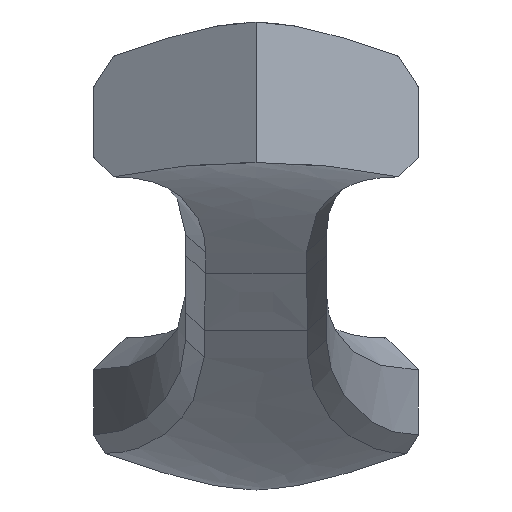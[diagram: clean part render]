
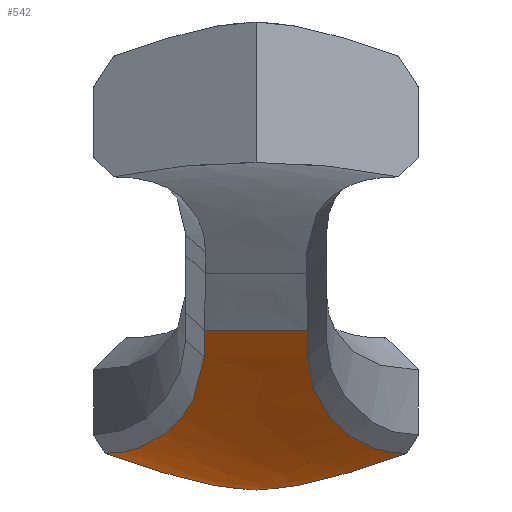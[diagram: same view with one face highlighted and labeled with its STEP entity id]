
A CAD part, left-side view. The second image highlights one B-rep face of the part: STEP entity #542.
In plain terms, the highlighted free-form (B-spline) face has degree [3, 3] with [4, 4] control points.
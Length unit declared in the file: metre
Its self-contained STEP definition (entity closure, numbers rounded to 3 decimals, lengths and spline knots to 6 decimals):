
#122=ORIENTED_EDGE('',*,*,#285,.T.);
#123=ORIENTED_EDGE('',*,*,#286,.T.);
#124=ORIENTED_EDGE('',*,*,#287,.T.);
#125=ORIENTED_EDGE('',*,*,#288,.F.);
#126=ORIENTED_EDGE('',*,*,#289,.T.);
#127=ORIENTED_EDGE('',*,*,#290,.T.);
#128=ORIENTED_EDGE('',*,*,#291,.T.);
#285=EDGE_CURVE('',#364,#365,#416,.T.);
#286=EDGE_CURVE('',#365,#366,#417,.T.);
#287=EDGE_CURVE('',#366,#367,#418,.T.);
#288=EDGE_CURVE('',#368,#367,#419,.T.);
#289=EDGE_CURVE('',#368,#369,#420,.T.);
#290=EDGE_CURVE('',#369,#370,#421,.T.);
#291=EDGE_CURVE('',#370,#364,#422,.T.);
#364=VERTEX_POINT('',#1067);
#365=VERTEX_POINT('',#1068);
#366=VERTEX_POINT('',#1073);
#367=VERTEX_POINT('',#1102);
#368=VERTEX_POINT('',#1107);
#369=VERTEX_POINT('',#1112);
#370=VERTEX_POINT('',#1141);
#416=B_SPLINE_CURVE_WITH_KNOTS('',3,(#1063,#1064,#1065,#1066),
 .UNSPECIFIED.,.F.,.F.,(4,4),(0.13151,0.868128),
 .UNSPECIFIED.);
#417=B_SPLINE_CURVE_WITH_KNOTS('',3,(#1069,#1070,#1071,#1072),
 .UNSPECIFIED.,.F.,.F.,(4,4),(0.,1.),.UNSPECIFIED.);
#418=B_SPLINE_CURVE_WITH_KNOTS('',3,(#1074,#1075,#1076,#1077,#1078,#1079,
#1080,#1081,#1082,#1083,#1084,#1085,#1086,#1087,#1088,#1089,#1090,#1091,
#1092,#1093,#1094,#1095,#1096,#1097,#1098,#1099,#1100,#1101),
 .UNSPECIFIED.,.F.,.F.,(4,1,1,1,1,1,1,1,1,1,1,1,1,1,1,1,1,1,1,1,1,1,1,1,
1,4),(0.,0.125,0.1875,0.21875,0.234375,0.25,0.265625,0.28125,0.3125,0.375,
0.4375,0.46875,0.484375,0.5,0.515625,0.53125,0.5625,0.625,0.6875,0.71875,
0.75,0.78125,0.8125,0.875,0.9375,1.),.UNSPECIFIED.);
#419=B_SPLINE_CURVE_WITH_KNOTS('',3,(#1103,#1104,#1105,#1106),
 .UNSPECIFIED.,.F.,.F.,(4,4),(0.,1.),.PIECEWISE_BEZIER_KNOTS.);
#420=B_SPLINE_CURVE_WITH_KNOTS('',3,(#1108,#1109,#1110,#1111),
 .UNSPECIFIED.,.F.,.F.,(4,4),(0.,1.),.PIECEWISE_BEZIER_KNOTS.);
#421=B_SPLINE_CURVE_WITH_KNOTS('',3,(#1113,#1114,#1115,#1116,#1117,#1118,
#1119,#1120,#1121,#1122,#1123,#1124,#1125,#1126,#1127,#1128,#1129,#1130,
#1131,#1132,#1133,#1134,#1135,#1136,#1137,#1138,#1139,#1140),
 .UNSPECIFIED.,.F.,.F.,(4,1,1,1,1,1,1,1,1,1,1,1,1,1,1,1,1,1,1,1,1,1,1,1,
1,4),(0.,0.0625,0.125,0.1875,0.21875,0.25,0.28125,0.3125,0.375,0.4375,0.46875,
0.484375,0.5,0.515625,0.53125,0.5625,0.625,0.6875,0.71875,0.734375,0.75,
0.765625,0.78125,0.8125,0.875,1.),.UNSPECIFIED.);
#422=B_SPLINE_CURVE_WITH_KNOTS('',3,(#1142,#1143,#1144,#1145),
 .UNSPECIFIED.,.F.,.F.,(4,4),(0.,1.),.UNSPECIFIED.);
#466=EDGE_LOOP('',(#122,#123,#124,#125,#126,#127,#128));
#502=FACE_BOUND('',#466,.T.);
#532=(
BOUNDED_SURFACE()
B_SPLINE_SURFACE(3,3,((#1047,#1048,#1049,#1050),(#1051,#1052,#1053,#1054),
(#1055,#1056,#1057,#1058),(#1059,#1060,#1061,#1062)),
 .SURF_OF_REVOLUTION.,.F.,.F.,.F.)
B_SPLINE_SURFACE_WITH_KNOTS((4,4),(4,4),(0.,0.87229),(0.,1.),
 .PIECEWISE_BEZIER_KNOTS.)
GEOMETRIC_REPRESENTATION_ITEM()
RATIONAL_B_SPLINE_SURFACE(((1.,0.667,0.667,1.),
(1.,0.667,0.667,1.),(1.,0.667,0.667,
1.),(1.,0.667,0.667,1.)))
REPRESENTATION_ITEM('')
SURFACE()
);
#542=ADVANCED_FACE('',(#502),#532,.T.);
#1047=CARTESIAN_POINT('',(0.050911,0.,-0.00989));
#1048=CARTESIAN_POINT('',(0.050911,0.,-0.00989));
#1049=CARTESIAN_POINT('',(0.050911,0.,-0.00989));
#1050=CARTESIAN_POINT('',(0.050911,0.,-0.00989));
#1051=CARTESIAN_POINT('',(0.048577,-0.004042,-0.009899));
#1052=CARTESIAN_POINT('',(0.045076,-0.002021,-0.009913));
#1053=CARTESIAN_POINT('',(0.045076,0.002021,-0.009913));
#1054=CARTESIAN_POINT('',(0.048577,0.004042,-0.009899));
#1055=CARTESIAN_POINT('',(0.043922,-0.012078,-0.005933));
#1056=CARTESIAN_POINT('',(0.033462,-0.006039,-0.005975));
#1057=CARTESIAN_POINT('',(0.033462,0.006039,-0.005975));
#1058=CARTESIAN_POINT('',(0.043922,0.012078,-0.005933));
#1059=CARTESIAN_POINT('',(0.039634,-0.019485,-0.002978));
#1060=CARTESIAN_POINT('',(0.022759,-0.009743,-0.003044));
#1061=CARTESIAN_POINT('',(0.022759,0.009743,-0.003044));
#1062=CARTESIAN_POINT('',(0.039634,0.019485,-0.002978));
#1063=CARTESIAN_POINT('',(0.028646,-0.002206,-0.003074));
#1064=CARTESIAN_POINT('',(0.028633,-0.000728,-0.00312));
#1065=CARTESIAN_POINT('',(0.028633,0.000726,-0.00312));
#1066=CARTESIAN_POINT('',(0.028646,0.002204,-0.003074));
#1067=CARTESIAN_POINT('',(0.028646,-0.002206,-0.003074));
#1068=CARTESIAN_POINT('',(0.028646,0.002204,-0.003074));
#1069=CARTESIAN_POINT('',(0.028646,0.002206,-0.003074));
#1070=CARTESIAN_POINT('',(0.029819,0.002208,-0.003476));
#1071=CARTESIAN_POINT('',(0.030924,0.00221,-0.003867));
#1072=CARTESIAN_POINT('',(0.031949,0.002212,-0.004233));
#1073=CARTESIAN_POINT('',(0.031949,0.002212,-0.004233));
#1074=CARTESIAN_POINT('',(0.031949,0.002212,-0.004233));
#1075=CARTESIAN_POINT('',(0.032663,0.002214,-0.004489));
#1076=CARTESIAN_POINT('',(0.033679,0.002255,-0.004853));
#1077=CARTESIAN_POINT('',(0.034773,0.00235,-0.005243));
#1078=CARTESIAN_POINT('',(0.035289,0.002406,-0.005426));
#1079=CARTESIAN_POINT('',(0.035586,0.002443,-0.005531));
#1080=CARTESIAN_POINT('',(0.03578,0.002467,-0.005599));
#1081=CARTESIAN_POINT('',(0.03607,0.002507,-0.005701));
#1082=CARTESIAN_POINT('',(0.036416,0.002559,-0.005821));
#1083=CARTESIAN_POINT('',(0.037023,0.002657,-0.006032));
#1084=CARTESIAN_POINT('',(0.037841,0.002812,-0.006311));
#1085=CARTESIAN_POINT('',(0.038613,0.002985,-0.006566));
#1086=CARTESIAN_POINT('',(0.03912,0.00311,-0.00673));
#1087=CARTESIAN_POINT('',(0.039412,0.003186,-0.006823));
#1088=CARTESIAN_POINT('',(0.039599,0.003236,-0.006881));
#1089=CARTESIAN_POINT('',(0.039896,0.003318,-0.006974));
#1090=CARTESIAN_POINT('',(0.040244,0.003418,-0.00708));
#1091=CARTESIAN_POINT('',(0.040856,0.003603,-0.007262));
#1092=CARTESIAN_POINT('',(0.041672,0.003875,-0.007491));
#1093=CARTESIAN_POINT('',(0.04243,0.004154,-0.007684));
#1094=CARTESIAN_POINT('',(0.04302,0.004387,-0.007821));
#1095=CARTESIAN_POINT('',(0.043413,0.004549,-0.007907));
#1096=CARTESIAN_POINT('',(0.043934,0.004773,-0.00801));
#1097=CARTESIAN_POINT('',(0.04456,0.005056,-0.008119));
#1098=CARTESIAN_POINT('',(0.045307,0.005415,-0.008226));
#1099=CARTESIAN_POINT('',(0.046281,0.005917,-0.008312));
#1100=CARTESIAN_POINT('',(0.046883,0.006255,-0.008328));
#1101=CARTESIAN_POINT('',(0.047191,0.006432,-0.008326));
#1102=CARTESIAN_POINT('',(0.047191,0.006432,-0.008327));
#1103=CARTESIAN_POINT('',(0.050911,0.,-0.00989));
#1104=CARTESIAN_POINT('',(0.048235,0.004634,-0.009901));
#1105=CARTESIAN_POINT('',(0.042509,0.014517,-0.004687));
#1106=CARTESIAN_POINT('',(0.037782,0.022684,-0.00176));
#1107=CARTESIAN_POINT('',(0.050911,0.,-0.00989));
#1108=CARTESIAN_POINT('',(0.050911,0.,-0.00989));
#1109=CARTESIAN_POINT('',(0.048235,-0.004634,-0.009901));
#1110=CARTESIAN_POINT('',(0.042509,-0.014517,-0.004687));
#1111=CARTESIAN_POINT('',(0.037782,-0.022684,-0.00176));
#1112=CARTESIAN_POINT('',(0.047191,-0.006432,-0.008327));
#1113=CARTESIAN_POINT('',(0.047191,-0.006432,-0.008326));
#1114=CARTESIAN_POINT('',(0.046883,-0.006255,-0.008328));
#1115=CARTESIAN_POINT('',(0.046281,-0.005917,-0.008312));
#1116=CARTESIAN_POINT('',(0.045307,-0.005415,-0.008226));
#1117=CARTESIAN_POINT('',(0.04456,-0.005056,-0.008119));
#1118=CARTESIAN_POINT('',(0.043934,-0.004773,-0.00801));
#1119=CARTESIAN_POINT('',(0.043413,-0.004549,-0.007907));
#1120=CARTESIAN_POINT('',(0.04302,-0.004387,-0.007821));
#1121=CARTESIAN_POINT('',(0.04243,-0.004154,-0.007685));
#1122=CARTESIAN_POINT('',(0.041672,-0.003875,-0.007491));
#1123=CARTESIAN_POINT('',(0.040856,-0.003603,-0.007262));
#1124=CARTESIAN_POINT('',(0.040245,-0.003418,-0.00708));
#1125=CARTESIAN_POINT('',(0.039896,-0.003318,-0.006974));
#1126=CARTESIAN_POINT('',(0.039599,-0.003236,-0.006881));
#1127=CARTESIAN_POINT('',(0.039413,-0.003186,-0.006823));
#1128=CARTESIAN_POINT('',(0.03912,-0.00311,-0.00673));
#1129=CARTESIAN_POINT('',(0.038613,-0.002985,-0.006566));
#1130=CARTESIAN_POINT('',(0.037841,-0.002812,-0.006311));
#1131=CARTESIAN_POINT('',(0.037023,-0.002657,-0.006032));
#1132=CARTESIAN_POINT('',(0.036416,-0.002559,-0.005821));
#1133=CARTESIAN_POINT('',(0.03607,-0.002507,-0.005701));
#1134=CARTESIAN_POINT('',(0.03578,-0.002467,-0.005599));
#1135=CARTESIAN_POINT('',(0.035586,-0.002443,-0.005531));
#1136=CARTESIAN_POINT('',(0.035289,-0.002406,-0.005426));
#1137=CARTESIAN_POINT('',(0.034773,-0.00235,-0.005243));
#1138=CARTESIAN_POINT('',(0.03368,-0.002255,-0.004853));
#1139=CARTESIAN_POINT('',(0.032663,-0.002214,-0.004489));
#1140=CARTESIAN_POINT('',(0.031949,-0.002212,-0.004233));
#1141=CARTESIAN_POINT('',(0.031949,-0.002212,-0.004233));
#1142=CARTESIAN_POINT('',(0.031949,-0.002212,-0.004233));
#1143=CARTESIAN_POINT('',(0.030924,-0.00221,-0.003867));
#1144=CARTESIAN_POINT('',(0.029819,-0.002208,-0.003476));
#1145=CARTESIAN_POINT('',(0.028646,-0.002206,-0.003074));
